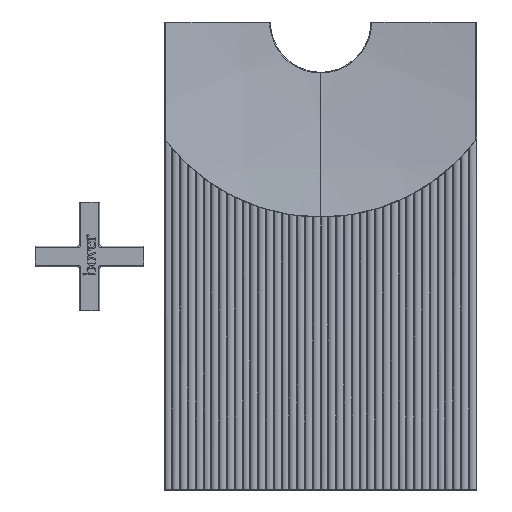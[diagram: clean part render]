
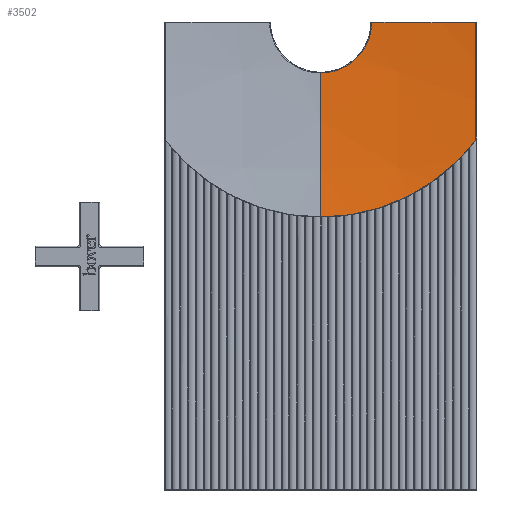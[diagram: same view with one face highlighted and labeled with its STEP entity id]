
A CAD part, front view. The second image highlights one B-rep face of the part: STEP entity #3502.
In plain terms, the highlighted spherical face has radius 715.727 mm.
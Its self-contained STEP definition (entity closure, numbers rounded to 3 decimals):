
#1065 = ORIENTED_EDGE ( 'NONE', *, *, #30144, .T. ) ;
#1068 = DIRECTION ( 'NONE',  ( 0., 0., -1. ) ) ;
#2097 = CARTESIAN_POINT ( 'NONE',  ( 30.924, 4.749, -139.078 ) ) ;
#2212 = EDGE_CURVE ( 'NONE', #14167, #17243, #12328, .T. ) ;
#2305 = CARTESIAN_POINT ( 'NONE',  ( 14.343, 4.749, -120.579 ) ) ;
#2502 = CARTESIAN_POINT ( 'NONE',  ( 4.24, 4.749, -117.544 ) ) ;
#2903 = CARTESIAN_POINT ( 'NONE',  ( 13.376, 4.749, -120.127 ) ) ;
#3293 = DIRECTION ( 'NONE',  ( 1., 0., 0. ) ) ;
#3437 = CARTESIAN_POINT ( 'NONE',  ( 0., 719.727, -150.003 ) ) ;
#3502 = ADVANCED_FACE ( 'NONE', ( #21890 ), #34493, .F. ) ;
#5198 = CARTESIAN_POINT ( 'NONE',  ( 32.397, 4.749, -145.238 ) ) ;
#5796 = CARTESIAN_POINT ( 'NONE',  ( 0., 4.749, -117.273 ) ) ;
#6722 = EDGE_CURVE ( 'NONE', #36858, #14167, #19003, .T. ) ;
#8682 = CARTESIAN_POINT ( 'NONE',  ( 3.708, 4.749, -117.479 ) ) ;
#8887 = CARTESIAN_POINT ( 'NONE',  ( 32.707, 4.749, -148.43 ) ) ;
#9810 = DIRECTION ( 'NONE',  ( 0., 0., 1. ) ) ;
#9854 = DIRECTION ( 'NONE',  ( 0., 0., 1. ) ) ;
#11153 = CARTESIAN_POINT ( 'NONE',  ( 99.431, 719.727, -150.003 ) ) ;
#11775 = CARTESIAN_POINT ( 'NONE',  ( 29.187, 4.749, -135.186 ) ) ;
#11986 = CARTESIAN_POINT ( 'NONE',  ( 10.435, 4.749, -118.909 ) ) ;
#12328 = CIRCLE ( 'NONE', #14978, 715.727 ) ;
#12383 = CARTESIAN_POINT ( 'NONE',  ( 12.889, 4.749, -119.913 ) ) ;
#12571 = CIRCLE ( 'NONE', #28433, 708.787 ) ;
#12810 = CIRCLE ( 'NONE', #14789, 715.727 ) ;
#14167 = VERTEX_POINT ( 'NONE', #14456 ) ;
#14248 = DIRECTION ( 'NONE',  ( -1., 0., 0. ) ) ;
#14452 = VERTEX_POINT ( 'NONE', #26632 ) ;
#14456 = CARTESIAN_POINT ( 'NONE',  ( 0., 4.749, -117.273 ) ) ;
#14678 = CARTESIAN_POINT ( 'NONE',  ( 23.335, 4.749, -127.048 ) ) ;
#14789 = AXIS2_PLACEMENT_3D ( 'NONE', #26484, #1068, #14248 ) ;
#14894 = CARTESIAN_POINT ( 'NONE',  ( 1.056, 4.749, -117.273 ) ) ;
#14978 = AXIS2_PLACEMENT_3D ( 'NONE', #3437, #40815, #9810 ) ;
#15080 = CARTESIAN_POINT ( 'NONE',  ( 2.115, 4.749, -117.324 ) ) ;
#15490 = CARTESIAN_POINT ( 'NONE',  ( 24.779, 4.749, -128.614 ) ) ;
#15879 = DIRECTION ( 'NONE',  ( 0., 0., 1. ) ) ;
#16558 = EDGE_CURVE ( 'NONE', #17243, #21730, #37236, .T. ) ;
#17243 = VERTEX_POINT ( 'NONE', #30634 ) ;
#17385 = CARTESIAN_POINT ( 'NONE',  ( 32.723, 4.749, -149.5 ) ) ;
#17798 = CARTESIAN_POINT ( 'NONE',  ( 26.433, 4.749, -130.675 ) ) ;
#17940 = AXIS2_PLACEMENT_3D ( 'NONE', #25201, #3293, #15879 ) ;
#18005 = CARTESIAN_POINT ( 'NONE',  ( 29.877, 4.749, -136.633 ) ) ;
#18211 = CARTESIAN_POINT ( 'NONE',  ( 27.623, 4.749, -132.417 ) ) ;
#19003 = B_SPLINE_CURVE_WITH_KNOTS ( 'NONE', 3,
 ( #17385, #8887, #27912, #5198, #21701, #40492, #2097, #18005, #24398, #11775, #40291, #21301, #18211, #17798, #34304, #15490, #21906, #28127, #14678, #30397, #31209, #30603, #40696, #34104, #2305, #2903, #12383, #11986, #30807, #36998, #27517, #2502, #8682, #15080, #14894, #5796 ),
 .UNSPECIFIED., .F., .F.,
 ( 4, 2, 2, 2, 2, 2, 2, 2, 2, 2, 2, 2, 2, 2, 2, 2, 2, 4 ),
 ( 0., 0.003, 0.006, 0.013, 0.014, 0.016, 0.019, 0.022, 0.024, 0.026, 0.032, 0.035, 0.037, 0.038, 0.045, 0.047, 0.048, 0.051 ),
 .UNSPECIFIED. ) ;
#20772 = EDGE_CURVE ( 'NONE', #14452, #36858, #12810, .T. ) ;
#21301 = CARTESIAN_POINT ( 'NONE',  ( 28.176, 4.749, -133.318 ) ) ;
#21701 = CARTESIAN_POINT ( 'NONE',  ( 32.225, 4.749, -144.191 ) ) ;
#21730 = VERTEX_POINT ( 'NONE', #22895 ) ;
#21890 = FACE_OUTER_BOUND ( 'NONE', #32098, .T. ) ;
#21906 = CARTESIAN_POINT ( 'NONE',  ( 24.429, 4.749, -128.215 ) ) ;
#22895 = CARTESIAN_POINT ( 'NONE',  ( 99.431, 15., -74.251 ) ) ;
#23573 = DIRECTION ( 'NONE',  ( 1., 0., 0. ) ) ;
#24398 = CARTESIAN_POINT ( 'NONE',  ( 29.655, 4.749, -136.146 ) ) ;
#25201 = CARTESIAN_POINT ( 'NONE',  ( 0., 719.727, -150.003 ) ) ;
#25276 = CARTESIAN_POINT ( 'NONE',  ( 32.723, 4.749, -149.5 ) ) ;
#26484 = CARTESIAN_POINT ( 'NONE',  ( 0., 719.727, -149.5 ) ) ;
#26632 = CARTESIAN_POINT ( 'NONE',  ( 99.431, 10.941, -149.5 ) ) ;
#26660 = ORIENTED_EDGE ( 'NONE', *, *, #16558, .T. ) ;
#26666 = ORIENTED_EDGE ( 'NONE', *, *, #6722, .T. ) ;
#27517 = CARTESIAN_POINT ( 'NONE',  ( 5.294, 4.749, -117.699 ) ) ;
#27912 = CARTESIAN_POINT ( 'NONE',  ( 32.638, 4.749, -147.362 ) ) ;
#28127 = CARTESIAN_POINT ( 'NONE',  ( 23.708, 4.749, -127.433 ) ) ;
#28433 = AXIS2_PLACEMENT_3D ( 'NONE', #11153, #23573, #33083 ) ;
#28907 = DIRECTION ( 'NONE',  ( 0., 1., 0. ) ) ;
#29321 = CARTESIAN_POINT ( 'NONE',  ( 0., 15., -150.003 ) ) ;
#30144 = EDGE_CURVE ( 'NONE', #21730, #14452, #12571, .T. ) ;
#30397 = CARTESIAN_POINT ( 'NONE',  ( 21.433, 4.749, -125.176 ) ) ;
#30603 = CARTESIAN_POINT ( 'NONE',  ( 17.146, 4.749, -122.104 ) ) ;
#30634 = CARTESIAN_POINT ( 'NONE',  ( 0., 15., -25.004 ) ) ;
#30807 = CARTESIAN_POINT ( 'NONE',  ( 8.415, 4.749, -118.302 ) ) ;
#31209 = CARTESIAN_POINT ( 'NONE',  ( 19.789, 4.749, -123.848 ) ) ;
#31964 = AXIS2_PLACEMENT_3D ( 'NONE', #29321, #28907, #9854 ) ;
#32098 = EDGE_LOOP ( 'NONE', ( #26666, #32225, #26660, #1065, #35604 ) ) ;
#32225 = ORIENTED_EDGE ( 'NONE', *, *, #2212, .T. ) ;
#33083 = DIRECTION ( 'NONE',  ( 0., 0., 1. ) ) ;
#34104 = CARTESIAN_POINT ( 'NONE',  ( 14.823, 4.749, -120.817 ) ) ;
#34304 = CARTESIAN_POINT ( 'NONE',  ( 25.797, 4.749, -129.833 ) ) ;
#34493 = SPHERICAL_SURFACE ( 'NONE', #17940, 715.727 ) ;
#35604 = ORIENTED_EDGE ( 'NONE', *, *, #20772, .T. ) ;
#36858 = VERTEX_POINT ( 'NONE', #25276 ) ;
#36998 = CARTESIAN_POINT ( 'NONE',  ( 5.817, 4.749, -117.79 ) ) ;
#37236 = CIRCLE ( 'NONE', #31964, 124.999 ) ;
#40291 = CARTESIAN_POINT ( 'NONE',  ( 28.942, 4.749, -134.713 ) ) ;
#40492 = CARTESIAN_POINT ( 'NONE',  ( 31.562, 4.749, -141.09 ) ) ;
#40696 = CARTESIAN_POINT ( 'NONE',  ( 16.235, 4.749, -121.564 ) ) ;
#40815 = DIRECTION ( 'NONE',  ( -1., 0., 0. ) ) ;
